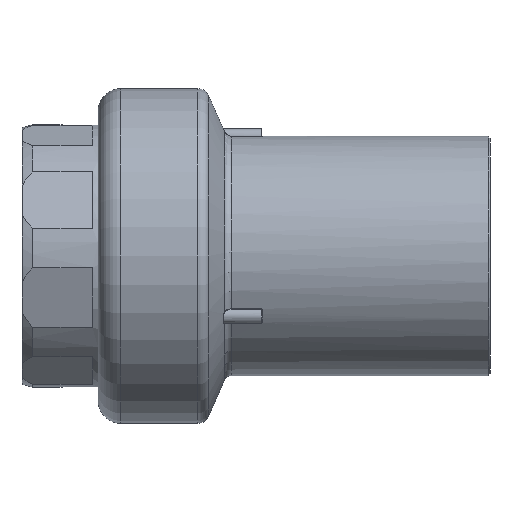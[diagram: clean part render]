
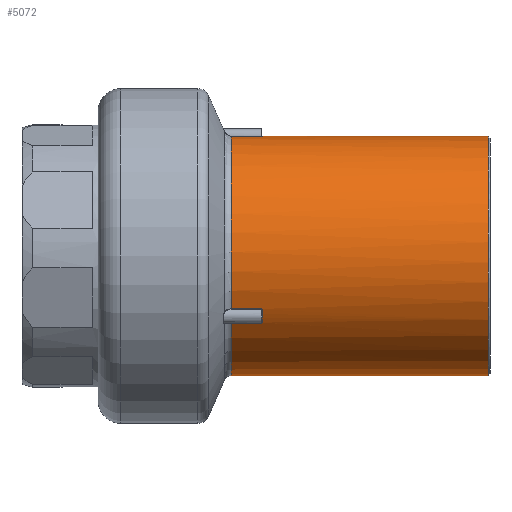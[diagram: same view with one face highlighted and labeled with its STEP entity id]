
A CAD part, front view. The second image highlights one B-rep face of the part: STEP entity #5072.
In plain terms, the highlighted cylindrical face has radius 31.5 mm (diameter 63 mm), a full revolution.
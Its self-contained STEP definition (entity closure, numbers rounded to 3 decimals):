
#66=CYLINDRICAL_SURFACE('',#6527,31.5);
#132=LINE('',#10021,#224);
#135=LINE('',#10076,#227);
#136=LINE('',#10193,#228);
#139=LINE('',#10242,#231);
#140=LINE('',#10298,#232);
#141=LINE('',#10312,#233);
#224=VECTOR('',#7099,1000.);
#227=VECTOR('',#7124,1000.);
#228=VECTOR('',#7145,1000.);
#231=VECTOR('',#7170,1000.);
#232=VECTOR('',#7187,1000.);
#233=VECTOR('',#7190,1000.);
#692=B_SPLINE_CURVE_WITH_KNOTS('',3,(#10089,#10090,#10091,#10092),
 .UNSPECIFIED.,.F.,.F.,(4,4),(0.,0.),.UNSPECIFIED.);
#693=B_SPLINE_CURVE_WITH_KNOTS('',3,(#10105,#10106,#10107,#10108),
 .UNSPECIFIED.,.F.,.F.,(4,4),(0.,0.),.UNSPECIFIED.);
#702=B_SPLINE_CURVE_WITH_KNOTS('',3,(#10255,#10256,#10257,#10258),
 .UNSPECIFIED.,.F.,.F.,(4,4),(0.,0.),.UNSPECIFIED.);
#703=B_SPLINE_CURVE_WITH_KNOTS('',3,(#10271,#10272,#10273,#10274),
 .UNSPECIFIED.,.F.,.F.,(4,4),(0.,0.),.UNSPECIFIED.);
#706=B_SPLINE_CURVE_WITH_KNOTS('',3,(#10300,#10301,#10302,#10303),
 .UNSPECIFIED.,.F.,.F.,(4,4),(0.,0.),.UNSPECIFIED.);
#707=B_SPLINE_CURVE_WITH_KNOTS('',3,(#10307,#10308,#10309,#10310),
 .UNSPECIFIED.,.F.,.F.,(4,4),(0.,0.),.UNSPECIFIED.);
#1674=ORIENTED_EDGE('',*,*,#2902,.F.);
#1675=ORIENTED_EDGE('',*,*,#2907,.T.);
#1676=ORIENTED_EDGE('',*,*,#2908,.F.);
#1677=ORIENTED_EDGE('',*,*,#2909,.T.);
#1678=ORIENTED_EDGE('',*,*,#2910,.F.);
#1679=ORIENTED_EDGE('',*,*,#2911,.T.);
#1680=ORIENTED_EDGE('',*,*,#2874,.F.);
#1681=ORIENTED_EDGE('',*,*,#2885,.T.);
#1682=ORIENTED_EDGE('',*,*,#2900,.F.);
#1683=ORIENTED_EDGE('',*,*,#2890,.T.);
#1684=ORIENTED_EDGE('',*,*,#2901,.F.);
#1685=ORIENTED_EDGE('',*,*,#2899,.T.);
#1686=ORIENTED_EDGE('',*,*,#2845,.F.);
#1687=ORIENTED_EDGE('',*,*,#2856,.T.);
#1688=ORIENTED_EDGE('',*,*,#2872,.F.);
#1689=ORIENTED_EDGE('',*,*,#2862,.T.);
#1690=ORIENTED_EDGE('',*,*,#2873,.F.);
#1691=ORIENTED_EDGE('',*,*,#2871,.T.);
#1692=ORIENTED_EDGE('',*,*,#2912,.T.);
#2845=EDGE_CURVE('',#3543,#3544,#3941,.T.);
#2856=EDGE_CURVE('',#3543,#3552,#132,.F.);
#2862=EDGE_CURVE('',#3557,#3556,#3949,.F.);
#2871=EDGE_CURVE('',#3560,#3553,#135,.T.);
#2872=EDGE_CURVE('',#3557,#3552,#692,.T.);
#2873=EDGE_CURVE('',#3560,#3556,#693,.T.);
#2874=EDGE_CURVE('',#3561,#3562,#3955,.T.);
#2885=EDGE_CURVE('',#3561,#3569,#136,.F.);
#2890=EDGE_CURVE('',#3573,#3572,#3963,.F.);
#2899=EDGE_CURVE('',#3576,#3544,#139,.T.);
#2900=EDGE_CURVE('',#3573,#3569,#702,.T.);
#2901=EDGE_CURVE('',#3576,#3572,#703,.T.);
#2902=EDGE_CURVE('',#3577,#3553,#3969,.T.);
#2907=EDGE_CURVE('',#3577,#3580,#140,.F.);
#2908=EDGE_CURVE('',#3581,#3580,#706,.T.);
#2909=EDGE_CURVE('',#3581,#3582,#3972,.F.);
#2910=EDGE_CURVE('',#3583,#3582,#707,.T.);
#2911=EDGE_CURVE('',#3583,#3562,#141,.T.);
#2912=EDGE_CURVE('',#3584,#3584,#3973,.F.);
#3543=VERTEX_POINT('',#9940);
#3544=VERTEX_POINT('',#9941);
#3552=VERTEX_POINT('',#10020);
#3553=VERTEX_POINT('',#10039);
#3556=VERTEX_POINT('',#10054);
#3557=VERTEX_POINT('',#10056);
#3560=VERTEX_POINT('',#10074);
#3561=VERTEX_POINT('',#10113);
#3562=VERTEX_POINT('',#10114);
#3569=VERTEX_POINT('',#10192);
#3572=VERTEX_POINT('',#10220);
#3573=VERTEX_POINT('',#10222);
#3576=VERTEX_POINT('',#10240);
#3577=VERTEX_POINT('',#10279);
#3580=VERTEX_POINT('',#10299);
#3581=VERTEX_POINT('',#10304);
#3582=VERTEX_POINT('',#10306);
#3583=VERTEX_POINT('',#10311);
#3584=VERTEX_POINT('',#10314);
#3941=CIRCLE('',#6481,31.5);
#3949=CIRCLE('',#6491,31.5);
#3955=CIRCLE('',#6502,31.5);
#3963=CIRCLE('',#6512,31.5);
#3969=CIRCLE('',#6523,31.5);
#3972=CIRCLE('',#6528,31.5);
#3973=CIRCLE('',#6529,31.5);
#4264=EDGE_LOOP('',(#1674,#1675,#1676,#1677,#1678,#1679,#1680,#1681,#1682,
#1683,#1684,#1685,#1686,#1687,#1688,#1689,#1690,#1691));
#4265=EDGE_LOOP('',(#1692));
#4648=FACE_BOUND('',#4264,.T.);
#4649=FACE_BOUND('',#4265,.T.);
#5072=ADVANCED_FACE('',(#4648,#4649),#66,.T.);
#6481=AXIS2_PLACEMENT_3D('',#9939,#7085,#7086);
#6491=AXIS2_PLACEMENT_3D('',#10055,#7107,#7108);
#6502=AXIS2_PLACEMENT_3D('',#10112,#7131,#7132);
#6512=AXIS2_PLACEMENT_3D('',#10221,#7153,#7154);
#6523=AXIS2_PLACEMENT_3D('',#10278,#7177,#7178);
#6527=AXIS2_PLACEMENT_3D('',#10297,#7185,#7186);
#6528=AXIS2_PLACEMENT_3D('',#10305,#7188,#7189);
#6529=AXIS2_PLACEMENT_3D('',#10313,#7191,#7192);
#7085=DIRECTION('',(-1.,0.,0.));
#7086=DIRECTION('',(0.,0.,1.));
#7099=DIRECTION('',(-1.,0.,0.));
#7107=DIRECTION('',(-1.,0.,0.));
#7108=DIRECTION('',(0.,0.5,0.866));
#7124=DIRECTION('',(-1.,0.,0.));
#7131=DIRECTION('',(-1.,0.,0.));
#7132=DIRECTION('',(0.,0.,1.));
#7145=DIRECTION('',(-1.,0.,0.));
#7153=DIRECTION('',(-1.,0.,0.));
#7154=DIRECTION('',(0.,0.5,-0.866));
#7170=DIRECTION('',(-1.,0.,0.));
#7177=DIRECTION('',(-1.,0.,0.));
#7178=DIRECTION('',(0.,0.,1.));
#7185=DIRECTION('',(-1.,0.,0.));
#7186=DIRECTION('',(0.,0.,1.));
#7187=DIRECTION('',(-1.,0.,0.));
#7188=DIRECTION('',(-1.,0.,0.));
#7189=DIRECTION('',(0.,-1.,0.));
#7190=DIRECTION('',(-1.,0.,0.));
#7191=DIRECTION('',(1.,0.,0.));
#7192=DIRECTION('',(0.,0.,-1.));
#9939=CARTESIAN_POINT('',(35.,0.,0.));
#9940=CARTESIAN_POINT('',(35.,26.174,-17.526));
#9941=CARTESIAN_POINT('',(35.,-26.174,-17.526));
#10020=CARTESIAN_POINT('',(42.9,26.174,-17.526));
#10021=CARTESIAN_POINT('',(-60.,26.174,-17.526));
#10039=CARTESIAN_POINT('',(35.,28.265,-13.904));
#10054=CARTESIAN_POINT('',(43.1,28.176,-14.084));
#10055=CARTESIAN_POINT('',(43.1,0.,0.));
#10056=CARTESIAN_POINT('',(43.1,26.285,-17.359));
#10074=CARTESIAN_POINT('',(42.9,28.265,-13.904));
#10076=CARTESIAN_POINT('',(-60.,28.265,-13.904));
#10089=CARTESIAN_POINT('',(43.1,26.285,-17.359));
#10090=CARTESIAN_POINT('',(43.1,26.227,-17.448));
#10091=CARTESIAN_POINT('',(43.006,26.174,-17.526));
#10092=CARTESIAN_POINT('',(42.9,26.174,-17.526));
#10105=CARTESIAN_POINT('',(42.9,28.265,-13.904));
#10106=CARTESIAN_POINT('',(43.006,28.265,-13.904));
#10107=CARTESIAN_POINT('',(43.1,28.223,-13.989));
#10108=CARTESIAN_POINT('',(43.1,28.176,-14.084));
#10112=CARTESIAN_POINT('',(35.,0.,0.));
#10113=CARTESIAN_POINT('',(35.,-28.265,-13.904));
#10114=CARTESIAN_POINT('',(35.,-2.091,31.431));
#10192=CARTESIAN_POINT('',(42.9,-28.265,-13.904));
#10193=CARTESIAN_POINT('',(-60.,-28.265,-13.904));
#10220=CARTESIAN_POINT('',(43.1,-26.285,-17.359));
#10221=CARTESIAN_POINT('',(43.1,0.,0.));
#10222=CARTESIAN_POINT('',(43.1,-28.176,-14.084));
#10240=CARTESIAN_POINT('',(42.9,-26.174,-17.526));
#10242=CARTESIAN_POINT('',(-60.,-26.174,-17.526));
#10255=CARTESIAN_POINT('',(43.1,-28.176,-14.084));
#10256=CARTESIAN_POINT('',(43.1,-28.223,-13.989));
#10257=CARTESIAN_POINT('',(43.006,-28.265,-13.904));
#10258=CARTESIAN_POINT('',(42.9,-28.265,-13.904));
#10271=CARTESIAN_POINT('',(42.9,-26.174,-17.526));
#10272=CARTESIAN_POINT('',(43.006,-26.174,-17.526));
#10273=CARTESIAN_POINT('',(43.1,-26.227,-17.448));
#10274=CARTESIAN_POINT('',(43.1,-26.285,-17.359));
#10278=CARTESIAN_POINT('',(35.,0.,0.));
#10279=CARTESIAN_POINT('',(35.,2.091,31.431));
#10297=CARTESIAN_POINT('',(-60.,0.,0.));
#10298=CARTESIAN_POINT('',(-60.,2.091,31.431));
#10299=CARTESIAN_POINT('',(42.9,2.091,31.431));
#10300=CARTESIAN_POINT('',(43.1,1.891,31.443));
#10301=CARTESIAN_POINT('',(43.1,1.997,31.437));
#10302=CARTESIAN_POINT('',(43.006,2.091,31.431));
#10303=CARTESIAN_POINT('',(42.9,2.091,31.431));
#10304=CARTESIAN_POINT('',(43.1,1.891,31.443));
#10305=CARTESIAN_POINT('',(43.1,0.,0.));
#10306=CARTESIAN_POINT('',(43.1,-1.891,31.443));
#10307=CARTESIAN_POINT('',(42.9,-2.091,31.431));
#10308=CARTESIAN_POINT('',(43.006,-2.091,31.431));
#10309=CARTESIAN_POINT('',(43.1,-1.997,31.437));
#10310=CARTESIAN_POINT('',(43.1,-1.891,31.443));
#10311=CARTESIAN_POINT('',(42.9,-2.091,31.431));
#10312=CARTESIAN_POINT('',(-60.,-2.091,31.431));
#10313=CARTESIAN_POINT('',(102.5,0.,0.));
#10314=CARTESIAN_POINT('',(102.5,0.,-31.5));
